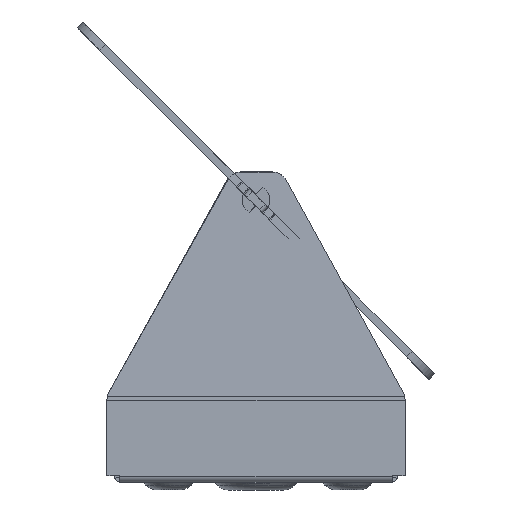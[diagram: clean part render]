
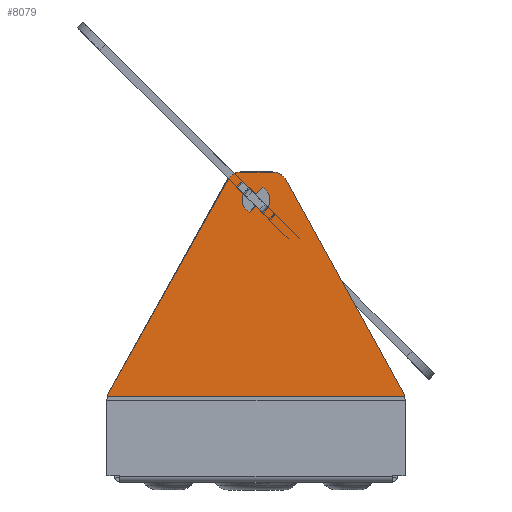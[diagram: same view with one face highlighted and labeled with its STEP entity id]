
A CAD part, left-side view. The second image highlights one B-rep face of the part: STEP entity #8079.
In plain terms, the highlighted planar face has unit normal (-0.999, 0, 0.035).
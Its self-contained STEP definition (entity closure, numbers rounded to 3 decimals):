
#64 = EDGE_CURVE ( 'NONE', #5037, #10750, #5557, .T. ) ;
#109 = DIRECTION ( 'NONE',  ( 0.999, 0., -0.035 ) ) ;
#113 = ORIENTED_EDGE ( 'NONE', *, *, #1530, .T. ) ;
#207 = CARTESIAN_POINT ( 'NONE',  ( 1.676, 34.604, 72.688 ) ) ;
#265 = EDGE_CURVE ( 'NONE', #1803, #12060, #2261, .T. ) ;
#278 = CARTESIAN_POINT ( 'NONE',  ( 1.688, 34.25, 73.041 ) ) ;
#352 = DIRECTION ( 'NONE',  ( -0.025, -0.707, -0.707 ) ) ;
#360 = AXIS2_PLACEMENT_3D ( 'NONE', #1152, #6846, #5892 ) ;
#399 = CARTESIAN_POINT ( 'NONE',  ( 1.858, 30.116, 77.917 ) ) ;
#424 = CARTESIAN_POINT ( 'NONE',  ( 1.787, 41.395, 75.869 ) ) ;
#569 = AXIS2_PLACEMENT_3D ( 'NONE', #7194, #1480, #8139 ) ;
#585 = VERTEX_POINT ( 'NONE', #4585 ) ;
#619 = AXIS2_PLACEMENT_3D ( 'NONE', #9579, #109, #6766 ) ;
#692 = DIRECTION ( 'NONE',  ( -0.999, 0., 0.035 ) ) ;
#874 = CARTESIAN_POINT ( 'NONE',  ( 1.614, 34.25, 70.921 ) ) ;
#924 = DIRECTION ( 'NONE',  ( -0.035, 0., -0.999 ) ) ;
#944 = VECTOR ( 'NONE', #9001, 1000. ) ;
#1008 = VERTEX_POINT ( 'NONE', #2314 ) ;
#1052 = VERTEX_POINT ( 'NONE', #1665 ) ;
#1112 = CARTESIAN_POINT ( 'NONE',  ( 1.719, 30.116, 73.92 ) ) ;
#1152 = CARTESIAN_POINT ( 'NONE',  ( 1.688, 34.25, 73.041 ) ) ;
#1256 = DIRECTION ( 'NONE',  ( -0.035, 0., -0.999 ) ) ;
#1275 = AXIS2_PLACEMENT_3D ( 'NONE', #1112, #7742, #2050 ) ;
#1480 = DIRECTION ( 'NONE',  ( 0.999, 0., -0.035 ) ) ;
#1513 = ORIENTED_EDGE ( 'NONE', *, *, #9690, .T. ) ;
#1530 = EDGE_CURVE ( 'NONE', #8924, #11696, #3194, .T. ) ;
#1565 = DIRECTION ( 'NONE',  ( -0.999, 0., 0.035 ) ) ;
#1665 = CARTESIAN_POINT ( 'NONE',  ( -0.079, -2.755, 22.451 ) ) ;
#1697 = AXIS2_PLACEMENT_3D ( 'NONE', #7269, #1565, #8220 ) ;
#1739 = CARTESIAN_POINT ( 'NONE',  ( 1.552, 34.604, 69.155 ) ) ;
#1775 = CARTESIAN_POINT ( 'NONE',  ( 1.676, 33.896, 72.688 ) ) ;
#1803 = VERTEX_POINT ( 'NONE', #6507 ) ;
#1826 = DIRECTION ( 'NONE',  ( 0.035, 0., 0.999 ) ) ;
#1902 = ORIENTED_EDGE ( 'NONE', *, *, #8107, .T. ) ;
#2050 = DIRECTION ( 'NONE',  ( -0.035, 0., -0.999 ) ) ;
#2067 = AXIS2_PLACEMENT_3D ( 'NONE', #278, #6947, #1256 ) ;
#2069 = DIRECTION ( 'NONE',  ( -0.025, 0.707, -0.707 ) ) ;
#2261 = LINE ( 'NONE', #10434, #11751 ) ;
#2314 = CARTESIAN_POINT ( 'NONE',  ( 1.721, 32.585, 73.998 ) ) ;
#2622 = VERTEX_POINT ( 'NONE', #424 ) ;
#2654 = ORIENTED_EDGE ( 'NONE', *, *, #3399, .T. ) ;
#2831 = ORIENTED_EDGE ( 'NONE', *, *, #64, .T. ) ;
#2833 = FACE_OUTER_BOUND ( 'NONE', #4939, .T. ) ;
#3176 = VERTEX_POINT ( 'NONE', #1739 ) ;
#3194 = CIRCLE ( 'NONE', #360, 0.5 ) ;
#3205 = EDGE_CURVE ( 'NONE', #1008, #4538, #7903, .T. ) ;
#3255 = CIRCLE ( 'NONE', #6518, 4. ) ;
#3261 = CARTESIAN_POINT ( 'NONE',  ( 1.858, 27.75, 77.917 ) ) ;
#3399 = EDGE_CURVE ( 'NONE', #3176, #585, #10265, .T. ) ;
#3760 = CIRCLE ( 'NONE', #8923, 4. ) ;
#3891 = VERTEX_POINT ( 'NONE', #8926 ) ;
#4127 = ORIENTED_EDGE ( 'NONE', *, *, #3205, .T. ) ;
#4141 = DIRECTION ( 'NONE',  ( 0., -1., 0. ) ) ;
#4167 = CARTESIAN_POINT ( 'NONE',  ( -0.078, 71.242, 22.46 ) ) ;
#4288 = LINE ( 'NONE', #1775, #9032 ) ;
#4294 = CARTESIAN_POINT ( 'NONE',  ( 1.671, 34.25, 72.542 ) ) ;
#4538 = VERTEX_POINT ( 'NONE', #9207 ) ;
#4585 = CARTESIAN_POINT ( 'NONE',  ( 1.507, 35.915, 67.844 ) ) ;
#4639 = CIRCLE ( 'NONE', #10643, 0.5 ) ;
#4939 = EDGE_LOOP ( 'NONE', ( #9208, #2831, #10929, #7167, #1902, #8096, #11529, #6397 ) ) ;
#4997 = CARTESIAN_POINT ( 'NONE',  ( 1.721, 35.915, 73.998 ) ) ;
#5037 = VERTEX_POINT ( 'NONE', #9957 ) ;
#5133 = EDGE_CURVE ( 'NONE', #7547, #5037, #11677, .T. ) ;
#5166 = CIRCLE ( 'NONE', #2067, 0.5 ) ;
#5181 = CARTESIAN_POINT ( 'NONE',  ( 1.719, 37.902, 73.92 ) ) ;
#5228 = VECTOR ( 'NONE', #2069, 1000. ) ;
#5296 = DIRECTION ( 'NONE',  ( 0.03, -0.488, 0.873 ) ) ;
#5413 = CARTESIAN_POINT ( 'NONE',  ( 1.552, 33.896, 69.155 ) ) ;
#5482 = CARTESIAN_POINT ( 'NONE',  ( 1.676, 33.896, 72.688 ) ) ;
#5531 = EDGE_LOOP ( 'NONE', ( #10094, #8990, #113, #9813, #4127, #1513, #9691, #2654, #12281 ) ) ;
#5557 = LINE ( 'NONE', #7902, #10008 ) ;
#5770 = VECTOR ( 'NONE', #11997, 1000. ) ;
#5892 = DIRECTION ( 'NONE',  ( -0.035, 0., -0.999 ) ) ;
#6150 = DIRECTION ( 'NONE',  ( -0.035, 0., -0.999 ) ) ;
#6210 = LINE ( 'NONE', #10728, #10640 ) ;
#6396 = CARTESIAN_POINT ( 'NONE',  ( 1.54, 34.25, 68.801 ) ) ;
#6397 = ORIENTED_EDGE ( 'NONE', *, *, #7083, .F. ) ;
#6474 = EDGE_CURVE ( 'NONE', #1803, #2622, #3760, .T. ) ;
#6490 = EDGE_CURVE ( 'NONE', #10931, #1052, #8513, .T. ) ;
#6507 = CARTESIAN_POINT ( 'NONE',  ( 1.858, 37.902, 77.917 ) ) ;
#6518 = AXIS2_PLACEMENT_3D ( 'NONE', #12253, #6621, #924 ) ;
#6621 = DIRECTION ( 'NONE',  ( -0.999, 0., 0.035 ) ) ;
#6625 = DIRECTION ( 'NONE',  ( 0., -1., 0. ) ) ;
#6720 = PLANE ( 'NONE',  #619 ) ;
#6766 = DIRECTION ( 'NONE',  ( -0.035, 0., -0.999 ) ) ;
#6846 = DIRECTION ( 'NONE',  ( -0.999, 0., 0.035 ) ) ;
#6947 = DIRECTION ( 'NONE',  ( -0.999, 0., 0.035 ) ) ;
#7066 = CARTESIAN_POINT ( 'NONE',  ( 1.786, 26.61, 75.845 ) ) ;
#7083 = EDGE_CURVE ( 'NONE', #7547, #2622, #9123, .T. ) ;
#7167 = ORIENTED_EDGE ( 'NONE', *, *, #6490, .F. ) ;
#7171 = CARTESIAN_POINT ( 'NONE',  ( -0.11, 71.75, 21.551 ) ) ;
#7194 = CARTESIAN_POINT ( 'NONE',  ( 1.614, 34.25, 70.921 ) ) ;
#7269 = CARTESIAN_POINT ( 'NONE',  ( -0.146, 67.75, 20.511 ) ) ;
#7350 = DIRECTION ( 'NONE',  ( 0.035, 0., 0.999 ) ) ;
#7428 = VERTEX_POINT ( 'NONE', #207 ) ;
#7445 = VERTEX_POINT ( 'NONE', #4997 ) ;
#7515 = DIRECTION ( 'NONE',  ( 0.999, 0., -0.035 ) ) ;
#7547 = VERTEX_POINT ( 'NONE', #4167 ) ;
#7742 = DIRECTION ( 'NONE',  ( -0.999, 0., 0.035 ) ) ;
#7760 = CARTESIAN_POINT ( 'NONE',  ( 1.552, 34.604, 69.155 ) ) ;
#7798 = EDGE_CURVE ( 'NONE', #3891, #3176, #4639, .T. ) ;
#7898 = FACE_BOUND ( 'NONE', #5531, .T. ) ;
#7902 = CARTESIAN_POINT ( 'NONE',  ( -0.109, 71.75, 21.576 ) ) ;
#7903 = CIRCLE ( 'NONE', #9400, 3.5 ) ;
#7997 = LINE ( 'NONE', #5413, #5770 ) ;
#8079 = ADVANCED_FACE ( 'NONE', ( #7898, #2833 ), #6720, .F. ) ;
#8096 = ORIENTED_EDGE ( 'NONE', *, *, #265, .F. ) ;
#8107 = EDGE_CURVE ( 'NONE', #10931, #12060, #9525, .T. ) ;
#8139 = DIRECTION ( 'NONE',  ( -0.035, 0., -0.999 ) ) ;
#8220 = DIRECTION ( 'NONE',  ( -0.035, 0., -0.999 ) ) ;
#8513 = LINE ( 'NONE', #3261, #944 ) ;
#8621 = EDGE_CURVE ( 'NONE', #10750, #1052, #3255, .T. ) ;
#8817 = VECTOR ( 'NONE', #5296, 1000. ) ;
#8923 = AXIS2_PLACEMENT_3D ( 'NONE', #5181, #11787, #6150 ) ;
#8924 = VERTEX_POINT ( 'NONE', #4294 ) ;
#8926 = CARTESIAN_POINT ( 'NONE',  ( 1.552, 33.896, 69.155 ) ) ;
#8990 = ORIENTED_EDGE ( 'NONE', *, *, #10047, .T. ) ;
#9001 = DIRECTION ( 'NONE',  ( -0.031, -0.482, -0.876 ) ) ;
#9032 = VECTOR ( 'NONE', #11243, 1000. ) ;
#9123 = LINE ( 'NONE', #7171, #8817 ) ;
#9207 = CARTESIAN_POINT ( 'NONE',  ( 1.507, 32.585, 67.844 ) ) ;
#9208 = ORIENTED_EDGE ( 'NONE', *, *, #5133, .T. ) ;
#9400 = AXIS2_PLACEMENT_3D ( 'NONE', #874, #7515, #1826 ) ;
#9525 = CIRCLE ( 'NONE', #1275, 4. ) ;
#9579 = CARTESIAN_POINT ( 'NONE',  ( -0.808, 71.75, 1.564 ) ) ;
#9690 = EDGE_CURVE ( 'NONE', #4538, #3891, #7997, .T. ) ;
#9691 = ORIENTED_EDGE ( 'NONE', *, *, #7798, .T. ) ;
#9813 = ORIENTED_EDGE ( 'NONE', *, *, #9817, .T. ) ;
#9817 = EDGE_CURVE ( 'NONE', #11696, #1008, #4288, .T. ) ;
#9957 = CARTESIAN_POINT ( 'NONE',  ( -0.109, 71.605, 21.576 ) ) ;
#10008 = VECTOR ( 'NONE', #4141, 1000. ) ;
#10047 = EDGE_CURVE ( 'NONE', #7428, #8924, #5166, .T. ) ;
#10094 = ORIENTED_EDGE ( 'NONE', *, *, #11428, .T. ) ;
#10205 = EDGE_CURVE ( 'NONE', #585, #7445, #10337, .T. ) ;
#10265 = LINE ( 'NONE', #7760, #5228 ) ;
#10337 = CIRCLE ( 'NONE', #569, 3.5 ) ;
#10434 = CARTESIAN_POINT ( 'NONE',  ( 1.858, 40.25, 77.917 ) ) ;
#10578 = CARTESIAN_POINT ( 'NONE',  ( -0.109, -3.109, 21.576 ) ) ;
#10640 = VECTOR ( 'NONE', #352, 1000. ) ;
#10643 = AXIS2_PLACEMENT_3D ( 'NONE', #6396, #692, #7350 ) ;
#10728 = CARTESIAN_POINT ( 'NONE',  ( 1.676, 34.604, 72.688 ) ) ;
#10750 = VERTEX_POINT ( 'NONE', #10578 ) ;
#10929 = ORIENTED_EDGE ( 'NONE', *, *, #8621, .T. ) ;
#10931 = VERTEX_POINT ( 'NONE', #7066 ) ;
#11243 = DIRECTION ( 'NONE',  ( 0.025, -0.707, 0.707 ) ) ;
#11428 = EDGE_CURVE ( 'NONE', #7445, #7428, #6210, .T. ) ;
#11529 = ORIENTED_EDGE ( 'NONE', *, *, #6474, .T. ) ;
#11677 = CIRCLE ( 'NONE', #1697, 4. ) ;
#11696 = VERTEX_POINT ( 'NONE', #5482 ) ;
#11751 = VECTOR ( 'NONE', #6625, 1000. ) ;
#11787 = DIRECTION ( 'NONE',  ( -0.999, 0., 0.035 ) ) ;
#11997 = DIRECTION ( 'NONE',  ( 0.025, 0.707, 0.707 ) ) ;
#12060 = VERTEX_POINT ( 'NONE', #399 ) ;
#12253 = CARTESIAN_POINT ( 'NONE',  ( -0.146, 0.75, 20.525 ) ) ;
#12281 = ORIENTED_EDGE ( 'NONE', *, *, #10205, .T. ) ;
